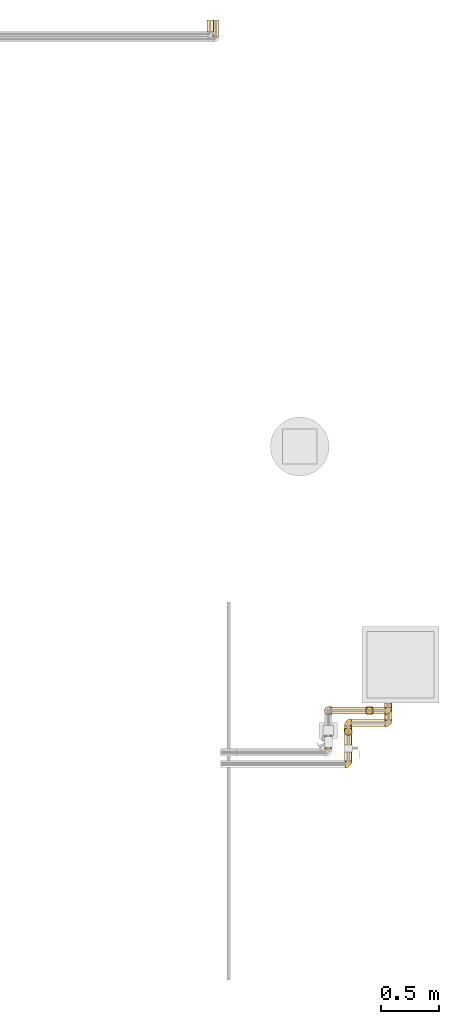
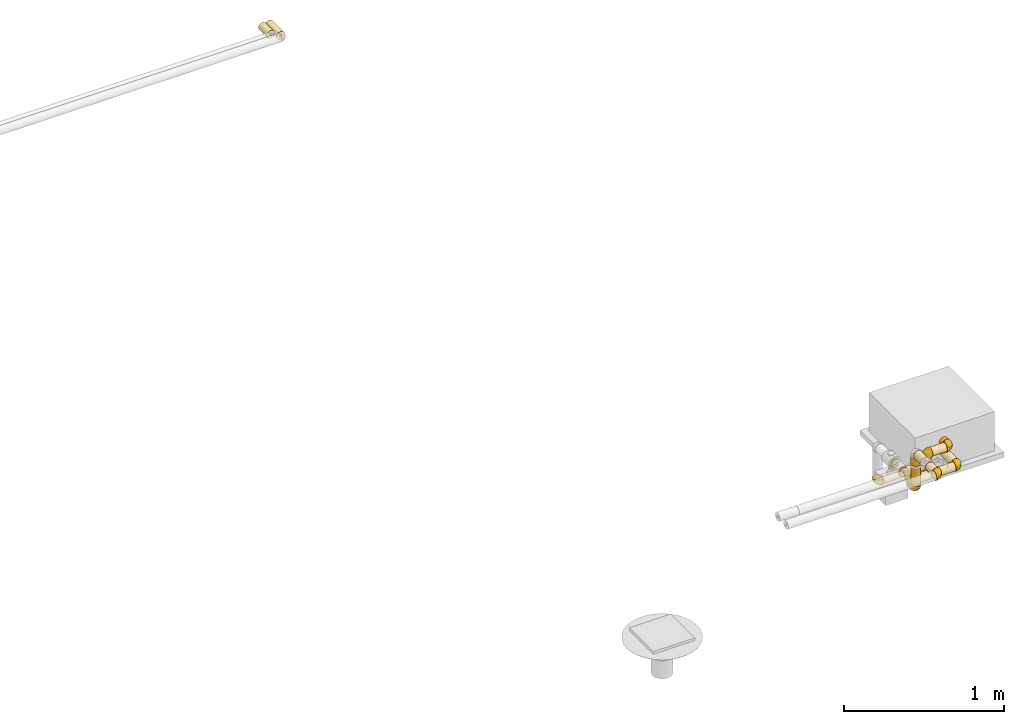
# One storey, part 2 of 13: 23 coverings.
"""IFC2X3 building model written with IfcOpenShell, lengths in millimetres."""

from ifc_helpers import new_model, entity, si_unit, converted_unit, derived_unit, direction, frame, origin_with_axes, origin_2d_with_axis, place, context, subcontext, project, spatial, hollow_circle, extrude, open_shell, surface_model, source, transform, mapped, element, save


model = new_model("IFC2X3")

# Units and contexts
model_context = context("Model", 3, precision=0.01, world=frame((0.0, 4.29681676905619e-09, 0.0)), true_north=direction((4.01073788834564e-13, 1.0)))
plan_context = context("Plan", 3, precision=0.01, world=frame((0.0, 4.29681676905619e-09, 0.0)), true_north=direction((4.01073788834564e-13, 1.0)))
body_context = subcontext(model_context, "Body", "Model", "MODEL_VIEW")
ifc_project = project(units=[converted_unit("PLANEANGLEUNIT", "DEGREE", entity("IfcPositiveLengthMeasure", 0.0174532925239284), si_unit("PLANEANGLEUNIT", "RADIAN"), dimensions=[0, 0, 0, 0, 0, 0, 0]), si_unit("AREAUNIT", "SQUARE_METRE"), si_unit("LENGTHUNIT", "METRE", prefix="MILLI"), si_unit("MASSUNIT", "GRAM", prefix="KILO"), si_unit("POWERUNIT", "WATT"), si_unit("PRESSUREUNIT", "PASCAL"), si_unit("FORCEUNIT", "NEWTON", prefix="KILO"), si_unit("ELECTRICVOLTAGEUNIT", "VOLT"), si_unit("ELECTRICCURRENTUNIT", "AMPERE"), si_unit("THERMODYNAMICTEMPERATUREUNIT", "DEGREE_CELSIUS"), si_unit("TIMEUNIT", "SECOND"), si_unit("VOLUMEUNIT", "CUBIC_METRE"), derived_unit("LINEARVELOCITYUNIT", [(si_unit("LENGTHUNIT", "METRE"), 1), (si_unit("TIMEUNIT", "SECOND"), -1)]), derived_unit("VOLUMETRICFLOWRATEUNIT", [(si_unit("VOLUMEUNIT", "CUBIC_METRE"), 1), (si_unit("TIMEUNIT", "SECOND"), -1)]), derived_unit("THERMALTRANSMITTANCEUNIT", [(si_unit("POWERUNIT", "WATT"), 1), (si_unit("THERMODYNAMICTEMPERATUREUNIT", "KELVIN"), -1), (si_unit("AREAUNIT", "SQUARE_METRE"), -1)]), derived_unit("SOUNDPRESSUREUNIT", [(si_unit("PRESSUREUNIT", "PASCAL"), 1)])], contexts=[model_context, plan_context])

# Site, building, storey
site_placement = place(None, frame((0.0, -4.29681676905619e-09, 0.0), z_axis=(0.0, 0.0, 1.0), x_axis=(1.0, 0.0, 0.0)))
site = spatial("IfcSite", under=ifc_project, at=site_placement, Name="ENGM", CompositionType="ELEMENT")
building_placement = place(site_placement, frame((0.0, 4.29681676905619e-09, 0.0), z_axis=(0.0, 0.0, 1.0), x_axis=(1.0, 0.0, 0.0)))
building = spatial("IfcBuilding", under=site, at=building_placement, Name="TI", CompositionType="ELEMENT")
storey_placement = place(building_placement, frame((0.0, 0.0, 210900.0), z_axis=(0.0, 0.0, 1.0), x_axis=(1.0, 0.0, 0.0)))
storey = spatial("IfcBuildingStorey", under=building, at=storey_placement, Name="Nivå F", CompositionType="ELEMENT", Elevation=210900.0)

# Coverings
shared_shape_1 = source(origin_with_axes(), body_context, "Body", "SurfaceModel", [
    surface_model("IfcShellBasedSurfaceModel", [(7.65854, 26.8, 33.53665), (14.93103, 26.8, 30.99072), (21.4533, 26.8, 26.89082), (-26.583, 26.8, -21.83356), (-7.52438, 26.8, 33.567), (30.99573, 26.8, 14.92062), (26.899, 26.8, 21.44304), (0.0, 26.8, 34.4), (-14.69425, 26.8, 31.10368), (-26.583, 26.8, 21.83356), (-21.15177, 26.8, 27.12863), (33.53852, 26.8, 7.65035), (34.4, 26.8, 0.0), (26.89082, 26.8, -21.4533), (33.53665, 26.8, -7.65854), (30.99072, 26.8, -14.93103), (21.44304, 26.8, -26.899), (14.92062, 26.8, -30.99573), (-14.70935, 26.8, -31.09655), (-21.16359, 26.8, -27.11941), (-7.53901, 26.8, -33.56372), (0.0, 26.8, -34.4), (7.65035, 26.8, -33.53852), (-26.8, 26.583, -21.83356), (-26.8, 21.15599, -27.12534), (-26.8, 14.7018, -31.10012), (-26.8, -8.90338, 33.22785), (-26.8, 26.583, 21.83356), (-26.8, 7.53379, -33.56489), (-26.8, 21.15599, 27.12534), (-26.8, 14.7018, 31.10012), (-26.8, 7.53379, 33.56489), (-26.8, 0.0, 34.4), (-26.8, -29.79127, 17.2), (-26.8, 0.0, -34.4), (-26.8, -8.90338, -33.22785), (-26.8, -17.2, -29.79127), (-26.8, -24.32447, -24.32447), (-26.8, -29.79127, -17.2), (-26.8, -34.4, 0.0), (-26.8, -33.22785, -8.90338), (-26.8, -17.2, 29.79127), (-26.8, -24.32447, 24.32447), (-26.8, -33.22785, 8.90338), (-26.64656, 26.64656, 21.83356), (-26.64656, 26.64656, -21.83356), (-3.59052, 13.4, -34.4), (-14.33755, 14.33755, -33.15375), (-20.98278, 20.24865, -29.29104), (-13.4, 3.59052, -34.4), (23.43181, -5.85668, -9.31772), (30.59211, 12.00691, -11.36629), (29.74143, 3.37977, 0.0), (-17.35379, -5.60847, -33.68915), (-10.72157, -3.05952, -33.65653), (-2.19496, -13.46149, -27.70964), (-5.90325, -23.09189, -20.94139), (-14.44362, -19.31464, -27.29136), (-11.50632, -10.12221, -31.78146), (-19.86027, -12.55716, -31.78146), (14.5039, 8.69712, -29.13049), (17.47419, 18.2255, -29.13049), (22.70218, 14.0418, -24.32911), (-8.49526, 8.49526, -34.4), (-1.73573, 4.43438, -33.72277), (-1.40625, 21.55179, -34.4), (21.13117, -4.93531, -15.5496), (-8.95552, -31.11498, -6.38768), (-11.56328, -29.76527, -13.16431), (31.96725, 14.56973, 0.0), (-17.29059, -26.4489, -20.94139), (13.00945, -12.79913, -17.94172), (17.64372, -3.70839, -21.17899), (4.67119, 7.67803, -32.90681), (10.14945, 17.27713, -32.47124), (28.1038, 16.16713, -18.30729), (5.75988, -4.42453, -29.1208), (-1.4374, -2.65193, -32.21392), (20.41295, 4.88172, -23.35949), (24.42026, 4.35073, -18.30729), (16.40522, -14.15163, -10.5905), (-1.3824, -25.73418, -13.68663), (1.8264, -26.29935, -7.71275), (8.10398, -20.63529, -12.38525), (11.69208, -20.10273, -5.98463), (16.47493, -16.47493, 0.0), (23.10818, -6.54758, 0.0), (-14.56973, -31.96725, 0.0), (4.03594, -17.21397, -21.39036), (9.62885, -9.0633, -24.32911), (-21.55179, 1.40625, -34.4), (13.92099, -0.05311, -26.46374), (9.4576, 2.58417, -30.01827), (-3.37977, -29.74143, 0.0), (6.54758, -23.10818, 0.0), (-16.40302, -11.7882, 31.78146), (-8.96499, -31.08424, 6.55564), (10.63139, -19.08757, 11.50781), (23.44486, -5.83859, 9.31385), (22.71205, 14.04293, 24.31983), (28.11122, 16.17091, 18.29685), (-8.34799, -17.2314, 27.29136), (-13.16926, -25.54575, 20.94139), (1.60724, -19.88713, 20.19204), (14.51664, 8.70018, 29.12392), (17.4853, 18.22796, 29.12392), (10.15899, 17.27639, 32.46794), (17.02293, -8.95279, 17.25897), (-13.98179, -4.14591, 33.74209), (-13.4, 3.59052, 34.4), (-20.1, 1.79526, 34.4), (-1.40625, 21.55179, 34.4), (-16.33213, -31.39885, 11.74535), (-18.40196, -20.19695, 27.29136), (2.37805, -25.95313, 7.88237), (-5.56785, -27.79838, 13.16431), (30.59671, 12.01158, 11.35688), (1.61546, -9.41417, 28.52205), (-9.49504, -8.67307, 31.98214), (24.43036, 4.35742, 18.29685), (-8.61019, -0.7535, 33.83371), (-2.54483, 2.9265, 33.63096), (-3.59052, 13.4, 34.4), (-8.49526, 8.49526, 34.4), (18.33244, 2.77456, 24.3201), (4.67405, 7.66653, 32.90424), (-20.5196, -5.89205, 33.78227), (9.64914, -9.05591, 24.31984), (7.49925, -1.10027, 29.66678), (2.2383, -14.80321, 24.70771), (-3.35568, -4.38407, 32.15869), (-14.33836, 14.33836, 33.15344), (-20.24021, 20.9835, 29.29463)], [open_shell([[[0, 1, 2]], [[2, 3, 4]], [[5, 2, 6]], [[5, 3, 2]], [[0, 2, 7]], [[2, 4, 7]], [[8, 9, 10]], [[9, 8, 4]], [[4, 3, 9]], [[5, 11, 12]], [[13, 12, 14]], [[13, 14, 15]], [[3, 13, 16]], [[13, 3, 12]], [[3, 16, 17]], [[3, 18, 19]], [[18, 3, 20]], [[21, 20, 3]], [[21, 3, 22]], [[3, 17, 22]], [[12, 3, 5]], [[23, 24, 25]], [[26, 27, 25]], [[23, 25, 27]], [[25, 28, 26]], [[29, 27, 30]], [[27, 31, 30]], [[31, 27, 32]], [[32, 27, 26]], [[33, 28, 34]], [[35, 36, 37]], [[38, 33, 34]], [[38, 35, 37]], [[39, 38, 40]], [[41, 33, 42]], [[33, 41, 26]], [[33, 39, 43]], [[26, 28, 33]], [[38, 39, 33]], [[34, 35, 38]], [[23, 27, 44]], [[45, 23, 44]], [[9, 3, 44]], [[45, 44, 3]], [[46, 47, 20]], [[25, 48, 47]], [[34, 28, 49]], [[49, 28, 47]], [[25, 24, 48]], [[24, 23, 45]], [[45, 3, 19]], [[47, 48, 18]], [[47, 46, 49]], [[18, 20, 47]], [[20, 21, 46]], [[18, 48, 19]], [[28, 25, 47]], [[45, 19, 48]], [[45, 48, 24]], [[50, 51, 52]], [[53, 49, 54]], [[55, 56, 57]], [[58, 59, 53]], [[60, 61, 62]], [[63, 64, 54]], [[65, 21, 22]], [[51, 50, 66]], [[67, 40, 68]], [[51, 14, 69]], [[70, 38, 37]], [[36, 59, 57]], [[36, 57, 37]], [[38, 70, 68]], [[59, 36, 35]], [[71, 72, 66]], [[73, 46, 74]], [[65, 22, 74]], [[13, 15, 75]], [[62, 16, 13]], [[74, 46, 65]], [[74, 22, 17]], [[61, 74, 17]], [[76, 55, 77]], [[74, 60, 73]], [[78, 79, 72]], [[78, 62, 79]], [[71, 66, 80]], [[67, 81, 82]], [[51, 15, 14]], [[52, 51, 69]], [[79, 75, 51]], [[38, 68, 40]], [[75, 62, 13]], [[83, 84, 82]], [[16, 61, 17]], [[81, 83, 82]], [[85, 50, 86]], [[40, 67, 87]], [[71, 88, 89]], [[54, 64, 77]], [[55, 57, 58]], [[70, 57, 56]], [[35, 34, 90]], [[60, 91, 92]], [[73, 77, 64]], [[14, 12, 69]], [[51, 75, 15]], [[62, 75, 79]], [[62, 61, 16]], [[74, 61, 60]], [[77, 55, 58]], [[55, 89, 88]], [[54, 58, 53]], [[91, 76, 92]], [[87, 67, 93]], [[87, 39, 40]], [[84, 85, 94]], [[94, 93, 82]], [[67, 82, 93]], [[80, 84, 83]], [[94, 82, 84]], [[81, 67, 68]], [[68, 56, 81]], [[88, 81, 56]], [[71, 80, 83]], [[80, 50, 85]], [[83, 81, 88]], [[72, 71, 89]], [[83, 88, 71]], [[55, 88, 56]], [[91, 72, 89]], [[66, 72, 79]], [[76, 91, 89]], [[78, 60, 62]], [[55, 76, 89]], [[92, 77, 73]], [[51, 66, 79]], [[66, 50, 80]], [[72, 91, 78]], [[60, 78, 91]], [[77, 92, 76]], [[73, 64, 46]], [[73, 60, 92]], [[57, 70, 37]], [[68, 70, 56]], [[53, 35, 90]], [[57, 59, 58]], [[35, 53, 59]], [[49, 53, 90]], [[63, 54, 49]], [[77, 58, 54]], [[50, 52, 86]], [[85, 84, 80]], [[46, 64, 63]], [[41, 95, 26]], [[93, 96, 87]], [[97, 85, 98]], [[96, 43, 87]], [[99, 100, 6]], [[101, 102, 103]], [[104, 105, 106]], [[107, 103, 97]], [[108, 109, 110]], [[0, 111, 106]], [[112, 102, 33]], [[0, 7, 111]], [[42, 113, 41]], [[41, 113, 95]], [[1, 0, 106]], [[114, 97, 115]], [[98, 52, 116]], [[101, 117, 118]], [[119, 100, 99]], [[2, 99, 6]], [[43, 96, 112]], [[116, 5, 100]], [[116, 69, 11]], [[2, 1, 105]], [[108, 120, 109]], [[121, 122, 123]], [[124, 119, 99]], [[104, 106, 125]], [[106, 122, 125]], [[5, 116, 11]], [[33, 102, 42]], [[105, 99, 2]], [[98, 116, 119]], [[124, 99, 104]], [[98, 107, 97]], [[5, 6, 100]], [[98, 85, 86]], [[122, 106, 111]], [[95, 108, 126]], [[127, 128, 117]], [[128, 104, 125]], [[103, 102, 115]], [[113, 102, 101]], [[123, 120, 121]], [[128, 127, 124]], [[97, 103, 115]], [[129, 127, 117]], [[114, 115, 96]], [[98, 119, 107]], [[69, 116, 52]], [[69, 12, 11]], [[26, 126, 32]], [[116, 100, 119]], [[106, 105, 1]], [[99, 105, 104]], [[121, 128, 125]], [[120, 123, 109]], [[117, 128, 130]], [[43, 39, 87]], [[94, 114, 93]], [[96, 115, 112]], [[97, 94, 85]], [[93, 114, 96]], [[94, 97, 114]], [[102, 112, 115]], [[33, 43, 112]], [[126, 108, 110]], [[118, 108, 95]], [[124, 107, 119]], [[103, 107, 127]], [[32, 126, 110]], [[95, 126, 26]], [[128, 124, 104]], [[107, 124, 127]], [[118, 117, 130]], [[129, 101, 103]], [[102, 113, 42]], [[95, 113, 101]], [[101, 118, 95]], [[120, 118, 130]], [[118, 120, 108]], [[120, 130, 121]], [[128, 121, 130]], [[122, 121, 125]], [[101, 129, 117]], [[103, 127, 129]], [[86, 52, 98]], [[31, 32, 109]], [[31, 131, 30]], [[30, 131, 132]], [[27, 29, 44]], [[122, 131, 109]], [[122, 7, 4]], [[31, 109, 131]], [[132, 44, 29]], [[132, 131, 8]], [[10, 9, 44]], [[44, 132, 10]], [[30, 132, 29]], [[4, 8, 131]], [[122, 4, 131]], [[8, 10, 132]]])]),
])
for number, where, z_axis, x_axis in (
    (1, (610086.18538, 691600.60738, 2475.0), (0.0, -1.0, 0.0), (0.0, 0.0, -1.0)),
    (2, (610439.38538, 691600.60738, 2475.0), (0.0, -1.0, 0.0), (1.0, 0.0, 0.0)),
    (3, (610439.38538, 691600.60738, 2560.0), (0.0, 1.0, 0.0), (0.0, 0.0, 1.0)),
):
    element("IfcCovering", number, at=place(storey_placement, frame(where, z_axis=z_axis, x_axis=x_axis)), inside=storey, Name="BI10T - Cellegummi 18-32 mm kalde rør", PredefinedType="INSULATION", context=body_context, shape_type="MappedRepresentation", body=[
        mapped(shared_shape_1, transform((0.0, 0.0, 0.0), scale=1.0)),
    ])
shared_shape_2 = source(origin_with_axes(), body_context, "Body", "SweptSolid", [
    extrude(hollow_circle(Radius=29.0, WallThickness=20.0, at=origin_2d_with_axis()), frame((0.0, 0.0, 0.0), z_axis=(1.0, 0.0, 0.0), x_axis=(0.0, 1.0, 0.0)), (0.0, 0.0, 1.0), 104.0),
])
covering_1_placement = place(storey_placement, frame((609069.65402, 697541.51267, 2700.0), z_axis=(0.0, 0.0, 1.0), x_axis=(0.0, -1.0, 0.0)))
element("IfcCovering", 4, at=covering_1_placement, inside=storey, Name="BI10T - Cellegummi 18-32 mm kalde rør", PredefinedType="INSULATION", context=body_context, shape_type="MappedRepresentation", body=[
    mapped(shared_shape_2, transform((0.0, 0.0, 0.0), scale=1.0)),
])
shared_shape_3 = source(origin_with_axes(), body_context, "Body", "SweptSolid", [
    extrude(hollow_circle(Radius=31.0, WallThickness=21.0, at=origin_2d_with_axis()), frame((0.0, 0.0, 0.0), z_axis=(1.0, 0.0, 0.0), x_axis=(0.0, 1.0, 0.0)), (0.0, 0.0, 1.0), 76.7),
])
covering_2_placement = place(storey_placement, frame((610257.26164, 691245.46347, 2740.0), z_axis=(0.0, 0.0, 1.0), x_axis=(0.0, -1.0, 0.0)))
element("IfcCovering", 5, at=covering_2_placement, inside=storey, Name="BI10T - Cellegummi 18-32 mm kalde rør", PredefinedType="INSULATION", context=body_context, shape_type="MappedRepresentation", body=[
    mapped(shared_shape_3, transform((0.0, 0.0, 0.0), scale=1.0)),
])
shared_shape_4 = source(origin_with_axes(), body_context, "Body", "SweptSolid", [
    extrude(hollow_circle(Radius=31.0, WallThickness=21.0, at=origin_2d_with_axis()), frame((0.0, 0.0, 0.0), z_axis=(1.0, 0.0, 0.0), x_axis=(0.0, 1.0, 0.0)), (0.0, 0.0, 1.0), 8.1),
])
covering_3_placement = place(storey_placement, frame((610086.18538, 691379.55306, 2740.0), z_axis=(0.0, 0.0, 1.0), x_axis=(0.0, 1.0, 0.0)))
element("IfcCovering", 6, at=covering_3_placement, inside=storey, Name="BI10T - Cellegummi 18-32 mm kalde rør", PredefinedType="INSULATION", context=body_context, shape_type="MappedRepresentation", body=[
    mapped(shared_shape_4, transform((0.0, 0.0, 0.0), scale=1.0)),
])
shared_shape_5 = source(origin_with_axes(), body_context, "Body", "SweptSolid", [
    extrude(hollow_circle(Radius=31.0, WallThickness=21.0, at=origin_2d_with_axis()), frame((0.0, 0.0, 0.0), z_axis=(1.0, 0.0, 0.0), x_axis=(0.0, 1.0, 0.0)), (0.0, 0.0, 1.0), 89.6),
])
covering_4_placement = place(storey_placement, frame((610257.26164, 691393.10405, 2740.0), z_axis=(0.0, 0.0, 1.0), x_axis=(0.0, -1.0, 0.0)))
element("IfcCovering", 7, at=covering_4_placement, inside=storey, Name="BI10T - Cellegummi 18-32 mm kalde rør", PredefinedType="INSULATION", context=body_context, shape_type="MappedRepresentation", body=[
    mapped(shared_shape_5, transform((0.0, 0.0, 0.0), scale=1.0)),
])
shared_shape_6 = source(origin_with_axes(), body_context, "Body", "SweptSolid", [
    extrude(hollow_circle(Radius=31.0, WallThickness=21.0, at=origin_2d_with_axis()), frame((0.0, 0.0, 0.0), z_axis=(1.0, 0.0, 0.0), x_axis=(0.0, 1.0, 0.0)), (0.0, 0.0, 1.0), 13.8),
])
covering_5_placement = place(storey_placement, frame((610086.18538, 691282.55306, 2740.0), z_axis=(0.0, 0.0, 1.0), x_axis=(0.0, -1.0, 0.0)))
element("IfcCovering", 8, at=covering_5_placement, inside=storey, Name="BI10T - Cellegummi 18-32 mm kalde rør", PredefinedType="INSULATION", context=body_context, shape_type="MappedRepresentation", body=[
    mapped(shared_shape_6, transform((0.0, 0.0, 0.0), scale=1.0)),
])
shared_shape_7 = source(origin_with_axes(), body_context, "Body", "SurfaceModel", [
    surface_model("IfcShellBasedSurfaceModel", [(-14.69425, 26.8, 31.10368), (-26.583, 26.8, 21.83356), (-21.15177, 26.8, 27.12863), (-7.52438, 26.8, 33.567), (-26.583, 26.8, -21.83356), (26.89082, 26.8, -21.4533), (34.4, 26.8, 0.0), (33.53665, 26.8, -7.65854), (30.99072, 26.8, -14.93103), (21.44304, 26.8, -26.899), (14.92062, 26.8, -30.99573), (-14.70935, 26.8, -31.09655), (-21.16359, 26.8, -27.11941), (-7.53901, 26.8, -33.56372), (0.0, 26.8, -34.4), (7.65035, 26.8, -33.53852), (-26.8, 26.583, -21.83356), (-26.8, 21.15599, -27.12534), (-26.8, 14.7018, -31.10012), (-26.8, -8.90338, 33.22785), (-26.8, 26.583, 21.83356), (-26.8, 7.53379, -33.56489), (-26.8, 21.15599, 27.12534), (-26.8, 14.7018, 31.10012), (-26.8, 7.53379, 33.56489), (-26.8, 0.0, 34.4), (-26.8, -29.79127, 17.2), (-26.8, 0.0, -34.4), (-26.8, -8.90338, -33.22785), (-26.8, -17.2, -29.79127), (-26.8, -24.32447, -24.32447), (-26.8, -29.79127, -17.2), (-26.8, -34.4, 0.0), (-26.8, -33.22785, -8.90338), (-26.8, -17.2, 29.79127), (-26.8, -24.32447, 24.32447), (-26.8, -33.22785, 8.90338), (-26.64656, 26.64656, 21.83356), (-26.64656, 26.64656, -21.83356), (-3.59052, 13.4, -34.4), (-14.33755, 14.33755, -33.15375), (-20.98278, 20.24865, -29.29104), (-13.4, 3.59052, -34.4), (23.43181, -5.85668, -9.31772), (30.59211, 12.00691, -11.36629), (29.74143, 3.37977, 0.0), (-17.35379, -5.60847, -33.68915), (-10.72157, -3.05952, -33.65653), (-2.19496, -13.46149, -27.70964), (-5.90325, -23.09189, -20.94139), (-14.44362, -19.31464, -27.29136), (-11.50632, -10.12221, -31.78146), (-19.86027, -12.55716, -31.78146), (14.5039, 8.69712, -29.13049), (17.47419, 18.2255, -29.13049), (22.70218, 14.0418, -24.32911), (-8.49526, 8.49526, -34.4), (-1.73573, 4.43438, -33.72277), (-1.40625, 21.55179, -34.4), (21.13117, -4.93531, -15.5496), (-8.95552, -31.11498, -6.38768), (-11.56328, -29.76527, -13.16431), (31.96725, 14.56973, 0.0), (-17.29059, -26.4489, -20.94139), (13.00945, -12.79913, -17.94172), (17.64372, -3.70839, -21.17899), (4.67119, 7.67803, -32.90681), (10.14945, 17.27713, -32.47124), (28.1038, 16.16713, -18.30729), (5.75988, -4.42453, -29.1208), (-1.4374, -2.65193, -32.21392), (20.41295, 4.88172, -23.35949), (24.42026, 4.35073, -18.30729), (16.40522, -14.15163, -10.5905), (-1.3824, -25.73418, -13.68663), (1.8264, -26.29935, -7.71275), (8.10398, -20.63529, -12.38525), (11.69208, -20.10273, -5.98463), (16.47493, -16.47493, 0.0), (23.10818, -6.54758, 0.0), (-14.56973, -31.96725, 0.0), (4.03594, -17.21397, -21.39036), (9.62885, -9.0633, -24.32911), (-21.55179, 1.40625, -34.4), (13.92099, -0.05311, -26.46374), (9.4576, 2.58417, -30.01827), (-3.37977, -29.74143, 0.0), (6.54758, -23.10818, 0.0), (-16.40302, -11.7882, 31.78146), (-8.96499, -31.08424, 6.55564), (10.63139, -19.08757, 11.50781), (23.44486, -5.83859, 9.31385), (22.71205, 14.04293, 24.31983), (28.11122, 16.17091, 18.29685), (26.899, 26.8, 21.44304), (-8.34799, -17.2314, 27.29136), (-13.16926, -25.54575, 20.94139), (1.60724, -19.88713, 20.19204), (14.51664, 8.70018, 29.12392), (17.4853, 18.22796, 29.12392), (10.15899, 17.27639, 32.46794), (17.02293, -8.95279, 17.25897), (-13.98179, -4.14591, 33.74209), (-13.4, 3.59052, 34.4), (-20.1, 1.79526, 34.4), (7.65854, 26.8, 33.53665), (-1.40625, 21.55179, 34.4), (-16.33213, -31.39885, 11.74535), (0.0, 26.8, 34.4), (-18.40196, -20.19695, 27.29136), (14.93103, 26.8, 30.99072), (2.37805, -25.95313, 7.88237), (-5.56785, -27.79838, 13.16431), (30.59671, 12.01158, 11.35688), (1.61546, -9.41417, 28.52205), (-9.49504, -8.67307, 31.98214), (24.43036, 4.35742, 18.29685), (21.4533, 26.8, 26.89082), (30.99573, 26.8, 14.92062), (33.53852, 26.8, 7.65035), (-8.61019, -0.7535, 33.83371), (-2.54483, 2.9265, 33.63096), (-3.59052, 13.4, 34.4), (-8.49526, 8.49526, 34.4), (18.33244, 2.77456, 24.3201), (4.67405, 7.66653, 32.90424), (-20.5196, -5.89205, 33.78227), (9.64914, -9.05591, 24.31984), (7.49925, -1.10027, 29.66678), (2.2383, -14.80321, 24.70771), (-3.35568, -4.38407, 32.15869), (-14.33836, 14.33836, 33.15344), (-20.24021, 20.9835, 29.29463)], [open_shell([[[0, 1, 2]], [[1, 0, 3]], [[3, 4, 1]], [[5, 6, 7]], [[5, 7, 8]], [[4, 5, 9]], [[5, 4, 6]], [[4, 9, 10]], [[4, 11, 12]], [[11, 4, 13]], [[14, 13, 4]], [[14, 4, 15]], [[4, 10, 15]], [[16, 17, 18]], [[19, 20, 18]], [[16, 18, 20]], [[18, 21, 19]], [[22, 20, 23]], [[20, 24, 23]], [[24, 20, 25]], [[25, 20, 19]], [[26, 21, 27]], [[28, 29, 30]], [[31, 26, 27]], [[31, 28, 30]], [[32, 31, 33]], [[34, 26, 35]], [[26, 34, 19]], [[26, 32, 36]], [[19, 21, 26]], [[31, 32, 26]], [[27, 28, 31]], [[16, 20, 37]], [[38, 16, 37]], [[1, 4, 37]], [[38, 37, 4]], [[39, 40, 13]], [[18, 41, 40]], [[27, 21, 42]], [[42, 21, 40]], [[18, 17, 41]], [[17, 16, 38]], [[38, 4, 12]], [[40, 41, 11]], [[40, 39, 42]], [[11, 13, 40]], [[13, 14, 39]], [[11, 41, 12]], [[21, 18, 40]], [[38, 12, 41]], [[38, 41, 17]], [[43, 44, 45]], [[46, 42, 47]], [[48, 49, 50]], [[51, 52, 46]], [[53, 54, 55]], [[56, 57, 47]], [[58, 14, 15]], [[44, 43, 59]], [[60, 33, 61]], [[44, 7, 62]], [[63, 31, 30]], [[29, 52, 50]], [[29, 50, 30]], [[31, 63, 61]], [[52, 29, 28]], [[64, 65, 59]], [[66, 39, 67]], [[58, 15, 67]], [[5, 8, 68]], [[55, 9, 5]], [[67, 39, 58]], [[67, 15, 10]], [[54, 67, 10]], [[69, 48, 70]], [[67, 53, 66]], [[71, 72, 65]], [[71, 55, 72]], [[64, 59, 73]], [[60, 74, 75]], [[44, 8, 7]], [[45, 44, 62]], [[72, 68, 44]], [[31, 61, 33]], [[68, 55, 5]], [[76, 77, 75]], [[9, 54, 10]], [[74, 76, 75]], [[78, 43, 79]], [[33, 60, 80]], [[64, 81, 82]], [[47, 57, 70]], [[48, 50, 51]], [[63, 50, 49]], [[28, 27, 83]], [[53, 84, 85]], [[66, 70, 57]], [[7, 6, 62]], [[44, 68, 8]], [[55, 68, 72]], [[55, 54, 9]], [[67, 54, 53]], [[70, 48, 51]], [[48, 82, 81]], [[47, 51, 46]], [[84, 69, 85]], [[80, 60, 86]], [[80, 32, 33]], [[77, 78, 87]], [[87, 86, 75]], [[60, 75, 86]], [[73, 77, 76]], [[87, 75, 77]], [[74, 60, 61]], [[61, 49, 74]], [[81, 74, 49]], [[64, 73, 76]], [[73, 43, 78]], [[76, 74, 81]], [[65, 64, 82]], [[76, 81, 64]], [[48, 81, 49]], [[84, 65, 82]], [[59, 65, 72]], [[69, 84, 82]], [[71, 53, 55]], [[48, 69, 82]], [[85, 70, 66]], [[44, 59, 72]], [[59, 43, 73]], [[65, 84, 71]], [[53, 71, 84]], [[70, 85, 69]], [[66, 57, 39]], [[66, 53, 85]], [[50, 63, 30]], [[61, 63, 49]], [[46, 28, 83]], [[50, 52, 51]], [[28, 46, 52]], [[42, 46, 83]], [[56, 47, 42]], [[70, 51, 47]], [[43, 45, 79]], [[78, 77, 73]], [[39, 57, 56]], [[34, 88, 19]], [[86, 89, 80]], [[90, 78, 91]], [[89, 36, 80]], [[92, 93, 94]], [[95, 96, 97]], [[98, 99, 100]], [[101, 97, 90]], [[102, 103, 104]], [[105, 106, 100]], [[107, 96, 26]], [[105, 108, 106]], [[35, 109, 34]], [[34, 109, 88]], [[110, 105, 100]], [[111, 90, 112]], [[91, 45, 113]], [[95, 114, 115]], [[116, 93, 92]], [[117, 92, 94]], [[36, 89, 107]], [[113, 118, 93]], [[113, 62, 119]], [[117, 110, 99]], [[102, 120, 103]], [[121, 122, 123]], [[124, 116, 92]], [[98, 100, 125]], [[100, 122, 125]], [[118, 113, 119]], [[26, 96, 35]], [[99, 92, 117]], [[91, 113, 116]], [[124, 92, 98]], [[91, 101, 90]], [[118, 94, 93]], [[91, 78, 79]], [[122, 100, 106]], [[88, 102, 126]], [[127, 128, 114]], [[128, 98, 125]], [[97, 96, 112]], [[109, 96, 95]], [[123, 120, 121]], [[128, 127, 124]], [[90, 97, 112]], [[129, 127, 114]], [[111, 112, 89]], [[91, 116, 101]], [[62, 113, 45]], [[62, 6, 119]], [[19, 126, 25]], [[113, 93, 116]], [[100, 99, 110]], [[92, 99, 98]], [[121, 128, 125]], [[120, 123, 103]], [[114, 128, 130]], [[36, 32, 80]], [[87, 111, 86]], [[89, 112, 107]], [[90, 87, 78]], [[86, 111, 89]], [[87, 90, 111]], [[96, 107, 112]], [[26, 36, 107]], [[126, 102, 104]], [[115, 102, 88]], [[124, 101, 116]], [[97, 101, 127]], [[25, 126, 104]], [[88, 126, 19]], [[128, 124, 98]], [[101, 124, 127]], [[115, 114, 130]], [[129, 95, 97]], [[96, 109, 35]], [[88, 109, 95]], [[95, 115, 88]], [[120, 115, 130]], [[115, 120, 102]], [[120, 130, 121]], [[128, 121, 130]], [[122, 121, 125]], [[95, 129, 114]], [[97, 127, 129]], [[79, 45, 91]], [[24, 25, 103]], [[24, 131, 23]], [[23, 131, 132]], [[20, 22, 37]], [[122, 131, 103]], [[122, 108, 3]], [[24, 103, 131]], [[132, 37, 22]], [[132, 131, 0]], [[2, 1, 37]], [[37, 132, 2]], [[23, 132, 22]], [[3, 0, 131]], [[122, 3, 131]], [[0, 2, 132]], [[110, 117, 94]], [[4, 94, 118]], [[110, 94, 105]], [[94, 4, 3]], [[108, 105, 3]], [[105, 94, 3]], [[4, 118, 119]], [[6, 4, 119]]])]),
])
for number, where, z_axis, x_axis in (
    (9, (610257.26164, 691141.97914, 2740.0), (0.0, 0.0, 1.0), (1.0, 0.0, 0.0)),
    (10, (610257.26164, 691419.90405, 2474.79999999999), (1.0, 0.0, 0.0), (0.0, 0.0, -1.0)),
    (11, (610257.26164, 691494.90405, 2474.79999999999), (0.0, 0.0, 1.0), (-1.0, 0.0, 0.0)),
    (12, (610602.26164, 691494.90405, 2475.0), (0.0, 0.0, 1.0), (1.0, 0.0, 0.0)),
    (13, (610599.38538, 691600.60738, 2560.0), (0.0, 0.0, 1.0), (1.0, 0.0, 0.0)),
):
    element("IfcCovering", number, at=place(storey_placement, frame(where, z_axis=z_axis, x_axis=x_axis)), inside=storey, Name="BI10T - Cellegummi 18-32 mm kalde rør", PredefinedType="INSULATION", context=body_context, shape_type="MappedRepresentation", body=[
        mapped(shared_shape_7, transform((0.0, 0.0, 0.0), scale=1.0)),
    ])
shared_shape_8 = source(origin_with_axes(), body_context, "Body", "SweptSolid", [
    extrude(hollow_circle(Radius=29.0, WallThickness=20.0, at=origin_2d_with_axis()), frame((0.0, 0.0, 0.0), z_axis=(1.0, 0.0, 0.0), x_axis=(0.0, 1.0, 0.0)), (0.0, 0.0, 1.0), 144.0),
])
covering_6_placement = place(storey_placement, frame((609117.81817, 697541.51267, 2700.0), z_axis=(0.0, 0.0, 1.0), x_axis=(0.0, -1.0, 0.0)))
element("IfcCovering", 14, at=covering_6_placement, inside=storey, Name="BI10T - Cellegummi 18-32 mm kalde rør", PredefinedType="INSULATION", context=body_context, shape_type="MappedRepresentation", body=[
    mapped(shared_shape_8, transform((0.0, 0.0, 0.0), scale=1.0)),
])
shared_shape_9 = source(origin_with_axes(), body_context, "Body", "SweptSolid", [
    extrude(hollow_circle(Radius=31.0, WallThickness=21.0, at=origin_2d_with_axis()), frame((0.0, 0.0, 0.0), z_axis=(1.0, 0.0, 0.0), x_axis=(0.0, 1.0, 0.0)), (0.0, 0.0, 1.0), 58.4),
])
covering_7_placement = place(storey_placement, frame((610257.26164, 691419.90405, 2713.20000000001), z_axis=(0.0, 1.0, 0.0), x_axis=(0.0, 0.0, -1.0)))
element("IfcCovering", 15, at=covering_7_placement, inside=storey, Name="BI16T - Rørskål m/Al.folie - VV 40mm", PredefinedType="INSULATION", context=body_context, shape_type="MappedRepresentation", body=[
    mapped(shared_shape_9, transform((0.0, 0.0, 0.0), scale=1.0)),
])
shared_shape_10 = source(origin_with_axes(), body_context, "Body", "SweptSolid", [
    extrude(hollow_circle(Radius=31.0, WallThickness=21.0, at=origin_2d_with_axis()), frame((0.0, 0.0, 0.0), z_axis=(1.0, 0.0, 0.0), x_axis=(0.0, 1.0, 0.0)), (0.0, 0.0, 1.0), 133.2),
])
covering_8_placement = place(storey_placement, frame((610257.26164, 691419.90405, 2634.79999999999), z_axis=(1.0, 0.0, 0.0), x_axis=(0.0, 0.0, -1.0)))
element("IfcCovering", 16, at=covering_8_placement, inside=storey, Name="BI10T - Cellegummi 18-32 mm kalde rør", PredefinedType="INSULATION", context=body_context, shape_type="MappedRepresentation", body=[
    mapped(shared_shape_10, transform((0.0, 0.0, 0.0), scale=1.0)),
])
shared_shape_11 = source(origin_with_axes(), body_context, "Body", "SweptSolid", [
    extrude(hollow_circle(Radius=31.0, WallThickness=21.0, at=origin_2d_with_axis()), frame((0.0, 0.0, 0.0), z_axis=(1.0, 0.0, 0.0), x_axis=(0.0, 1.0, 0.0)), (0.0, 0.0, 1.0), 21.4),
])
covering_9_placement = place(storey_placement, frame((610257.26164, 691446.70405, 2474.79999999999), z_axis=(0.0, 0.0, 1.0), x_axis=(0.0, 1.0, 0.0)))
element("IfcCovering", 17, at=covering_9_placement, inside=storey, Name="BI10T - Cellegummi 18-32 mm kalde rør", PredefinedType="INSULATION", context=body_context, shape_type="MappedRepresentation", body=[
    mapped(shared_shape_11, transform((0.0, 0.0, 0.0), scale=1.0)),
])
shared_shape_12 = source(origin_with_axes(), body_context, "Body", "SweptSolid", [
    extrude(hollow_circle(Radius=31.0, WallThickness=21.0, at=origin_2d_with_axis()), frame((0.0, 0.0, 0.0), z_axis=(1.0, 0.0, 0.0), x_axis=(0.0, 1.0, 0.0)), (0.0, 0.0, 1.0), 291.4),
])
covering_10_placement = place(storey_placement, frame((610284.06164, 691494.90405, 2475.0), z_axis=(0.0, 0.0, 1.0), x_axis=(1.0, 0.0, 0.0)))
element("IfcCovering", 18, at=covering_10_placement, inside=storey, Name="BI10T - Cellegummi 18-32 mm kalde rør", PredefinedType="INSULATION", context=body_context, shape_type="MappedRepresentation", body=[
    mapped(shared_shape_12, transform((0.0, 0.0, 0.0), scale=1.0)),
])
shared_shape_13 = source(origin_with_axes(), body_context, "Body", "SweptSolid", [
    extrude(hollow_circle(Radius=31.0, WallThickness=21.0, at=origin_2d_with_axis()), frame((0.0, 0.0, 0.0), z_axis=(1.0, 0.0, 0.0), x_axis=(0.0, 1.0, 0.0)), (0.0, 0.0, 1.0), 142.9),
])
covering_11_placement = place(storey_placement, frame((610602.26164, 691521.70405, 2475.0), z_axis=(0.0, 0.0, 1.0), x_axis=(0.0, 1.0, 0.0)))
element("IfcCovering", 19, at=covering_11_placement, inside=storey, Name="BI10T - Cellegummi 18-32 mm kalde rør", PredefinedType="INSULATION", context=body_context, shape_type="MappedRepresentation", body=[
    mapped(shared_shape_13, transform((0.0, 0.0, 0.0), scale=1.0)),
])
shared_shape_14 = source(origin_with_axes(), body_context, "Body", "SweptSolid", [
    extrude(hollow_circle(Radius=31.0, WallThickness=21.0, at=origin_2d_with_axis()), frame((0.0, 0.0, 0.0), z_axis=(1.0, 0.0, 0.0), x_axis=(0.0, 1.0, 0.0)), (0.0, 0.0, 1.0), 299.6),
])
covering_12_placement = place(storey_placement, frame((610112.98538, 691600.60738, 2475.0), z_axis=(0.0, 0.0, 1.0), x_axis=(1.0, 0.0, 0.0)))
element("IfcCovering", 20, at=covering_12_placement, inside=storey, Name="BI10T - Cellegummi 18-32 mm kalde rør", PredefinedType="INSULATION", context=body_context, shape_type="MappedRepresentation", body=[
    mapped(shared_shape_14, transform((0.0, 0.0, 0.0), scale=1.0)),
])
shared_shape_15 = source(origin_with_axes(), body_context, "Body", "SweptSolid", [
    extrude(hollow_circle(Radius=31.0, WallThickness=21.0, at=origin_2d_with_axis()), frame((0.0, 0.0, 0.0), z_axis=(1.0, 0.0, 0.0), x_axis=(0.0, 1.0, 0.0)), (0.0, 0.0, 1.0), 31.4),
])
covering_13_placement = place(storey_placement, frame((610439.38538, 691600.60738, 2501.79999999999), z_axis=(0.0, -1.0, 0.0), x_axis=(0.0, 0.0, 1.0)))
element("IfcCovering", 21, at=covering_13_placement, inside=storey, Name="BI10T - Cellegummi 18-32 mm kalde rør", PredefinedType="INSULATION", context=body_context, shape_type="MappedRepresentation", body=[
    mapped(shared_shape_15, transform((0.0, 0.0, 0.0), scale=1.0)),
])
shared_shape_16 = source(origin_with_axes(), body_context, "Body", "SweptSolid", [
    extrude(hollow_circle(Radius=31.0, WallThickness=21.0, at=origin_2d_with_axis()), frame((0.0, 0.0, 0.0), z_axis=(1.0, 0.0, 0.0), x_axis=(0.0, 1.0, 0.0)), (0.0, 0.0, 1.0), 106.4),
])
covering_14_placement = place(storey_placement, frame((610466.18538, 691600.60738, 2560.0), z_axis=(0.0, 0.0, 1.0), x_axis=(1.0, 0.0, 0.0)))
element("IfcCovering", 22, at=covering_14_placement, inside=storey, Name="BI10T - Cellegummi 18-32 mm kalde rør", PredefinedType="INSULATION", context=body_context, shape_type="MappedRepresentation", body=[
    mapped(shared_shape_16, transform((0.0, 0.0, 0.0), scale=1.0)),
])
shared_shape_17 = source(origin_with_axes(), body_context, "Body", "SweptSolid", [
    extrude(hollow_circle(Radius=31.0, WallThickness=21.0, at=origin_2d_with_axis()), frame((0.0, 0.0, 0.0), z_axis=(1.0, 0.0, 0.0), x_axis=(0.0, 1.0, 0.0)), (0.0, 0.0, 1.0), 38.2),
])
covering_15_placement = place(storey_placement, frame((610599.38538, 691627.40738, 2560.0), z_axis=(0.0, 0.0, 1.0), x_axis=(0.0, 1.0, 0.0)))
element("IfcCovering", 23, at=covering_15_placement, inside=storey, Name="BI10T - Cellegummi 18-32 mm kalde rør", PredefinedType="INSULATION", context=body_context, shape_type="MappedRepresentation", body=[
    mapped(shared_shape_17, transform((0.0, 0.0, 0.0), scale=1.0)),
])

save(model, "model.ifc")
